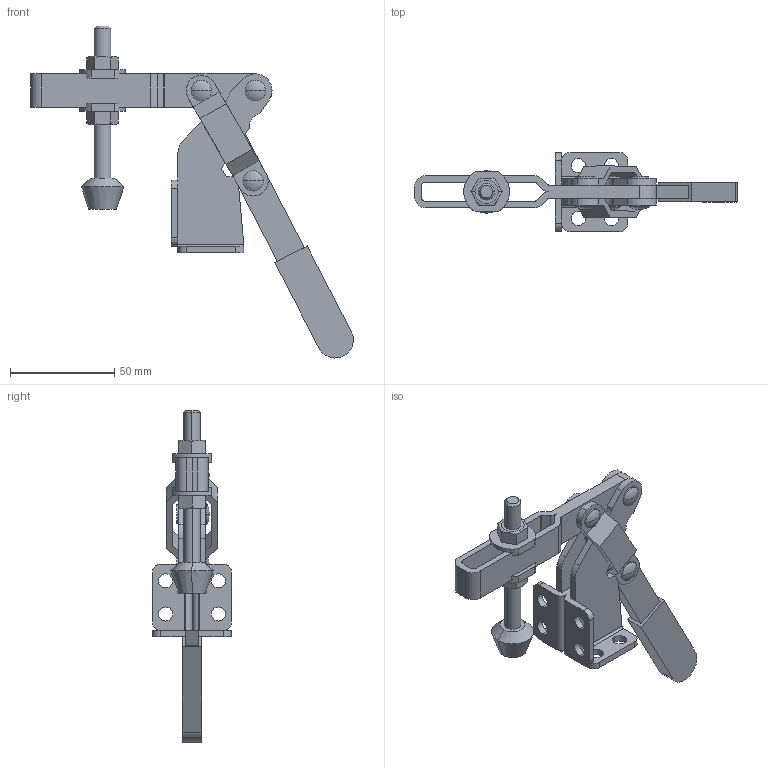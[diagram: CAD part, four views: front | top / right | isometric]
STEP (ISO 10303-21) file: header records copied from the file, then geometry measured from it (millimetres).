
FILE_DESCRIPTION(('CATIA V5 STEP Exchange'),'2;1');
FILE_NAME('D:\Model\toggle\toggle_standard\KJF_018_21FA.stp','2005-06-24T02:48:34+00:00',('none'),('none'),'CATIA Version 5 Release 11 (IN-9)','CATIA V5 STEP AP203',' none');
FILE_SCHEMA(('CONFIG_CONTROL_DESIGN'));
Length unit declared in the file: millimetre
Products named in the file (1): Part1
Bounding box: 155.09 x 38 x 159.5 mm (x, y, z)
Volume: 71097.4 mm3; surface area: 39793.5 mm2
Topology: 14 solids, 14 shells, 254 faces, 652 edges, 428 vertices
Faces by surface type: plane 136, cylinder 100, sphere 8, cone 6, torus 4
Entity records: 7472 total; most frequent: CARTESIAN_POINT 1459, ORIENTED_EDGE 1288, DIRECTION 1050, EDGE_CURVE 644, AXIS2_PLACEMENT_3D 449, VERTEX_POINT 428, VECTOR 392, LINE 392
